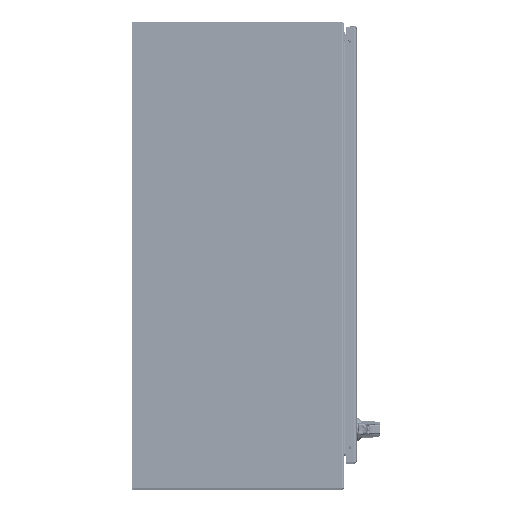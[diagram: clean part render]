
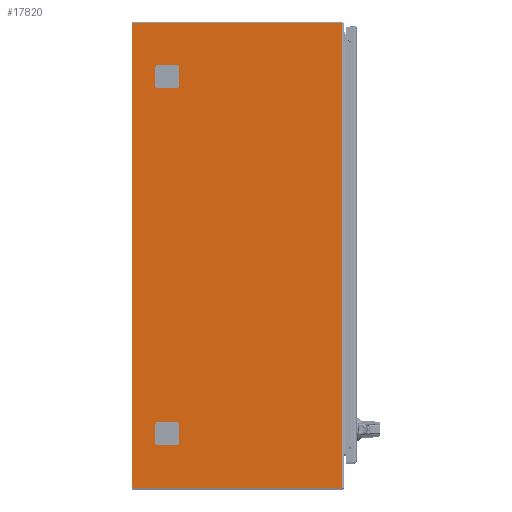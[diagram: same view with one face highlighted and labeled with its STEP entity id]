
A CAD part, top view. The second image highlights one B-rep face of the part: STEP entity #17820.
In plain terms, the highlighted planar face has unit normal (0, 0, 1) as drawn and (0, 1, 0) by its records, which use the part's own axes.
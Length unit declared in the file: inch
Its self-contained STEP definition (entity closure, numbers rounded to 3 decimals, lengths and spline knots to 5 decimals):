
#16583=CARTESIAN_POINT('',(-17.888,0.,-19.638));
#16584=DIRECTION('',(0.,1.,0.));
#16585=DIRECTION('',(0.,0.,-1.));
#16586=AXIS2_PLACEMENT_3D('',#16583,#16584,#16585);
#16591=CARTESIAN_POINT('',(-17.888,0.,19.638));
#16592=DIRECTION('',(0.,1.,0.));
#16593=DIRECTION('',(-1.,0.,0.));
#16594=AXIS2_PLACEMENT_3D('',#16591,#16592,#16593);
#16599=DIRECTION('',(0.,0.,1.));
#16600=VECTOR('',#16599,1.5);
#16601=CARTESIAN_POINT('',(-14.,0.,-15.875));
#16602=LINE('',#16601,#16600);
#16606=CARTESIAN_POINT('',(-14.25,0.,-15.875));
#16607=DIRECTION('',(0.,1.,0.));
#16608=DIRECTION('',(1.,0.,0.));
#16609=AXIS2_PLACEMENT_3D('',#16606,#16607,#16608);
#16614=DIRECTION('',(1.,0.,0.));
#16615=VECTOR('',#16614,1.5);
#16616=CARTESIAN_POINT('',(-15.75,0.,-16.125));
#16617=LINE('',#16616,#16615);
#16621=CARTESIAN_POINT('',(-15.75,0.,-15.875));
#16622=DIRECTION('',(0.,1.,0.));
#16623=DIRECTION('',(0.,0.,-1.));
#16624=AXIS2_PLACEMENT_3D('',#16621,#16622,#16623);
#16629=DIRECTION('',(0.,0.,-1.));
#16630=VECTOR('',#16629,1.5);
#16631=CARTESIAN_POINT('',(-16.,0.,-14.375));
#16632=LINE('',#16631,#16630);
#16636=CARTESIAN_POINT('',(-15.75,0.,-14.375));
#16637=DIRECTION('',(0.,1.,0.));
#16638=DIRECTION('',(-1.,0.,0.));
#16639=AXIS2_PLACEMENT_3D('',#16636,#16637,#16638);
#16644=DIRECTION('',(-1.,0.,0.));
#16645=VECTOR('',#16644,1.5);
#16646=CARTESIAN_POINT('',(-14.25,0.,-14.125));
#16647=LINE('',#16646,#16645);
#16651=CARTESIAN_POINT('',(-14.25,0.,-14.375));
#16652=DIRECTION('',(0.,1.,0.));
#16653=DIRECTION('',(0.,0.,1.));
#16654=AXIS2_PLACEMENT_3D('',#16651,#16652,#16653);
#16659=DIRECTION('',(0.,0.,1.));
#16660=VECTOR('',#16659,1.5);
#16661=CARTESIAN_POINT('',(-14.,0.,14.375));
#16662=LINE('',#16661,#16660);
#16666=CARTESIAN_POINT('',(-14.25,0.,14.375));
#16667=DIRECTION('',(0.,1.,0.));
#16668=DIRECTION('',(1.,0.,0.));
#16669=AXIS2_PLACEMENT_3D('',#16666,#16667,#16668);
#16674=DIRECTION('',(1.,0.,0.));
#16675=VECTOR('',#16674,1.5);
#16676=CARTESIAN_POINT('',(-15.75,0.,14.125));
#16677=LINE('',#16676,#16675);
#16681=CARTESIAN_POINT('',(-15.75,0.,14.375));
#16682=DIRECTION('',(0.,1.,0.));
#16683=DIRECTION('',(0.,0.,-1.));
#16684=AXIS2_PLACEMENT_3D('',#16681,#16682,#16683);
#16689=DIRECTION('',(0.,0.,-1.));
#16690=VECTOR('',#16689,1.5);
#16691=CARTESIAN_POINT('',(-16.,0.,15.875));
#16692=LINE('',#16691,#16690);
#16696=CARTESIAN_POINT('',(-15.75,0.,15.875));
#16697=DIRECTION('',(0.,1.,0.));
#16698=DIRECTION('',(-1.,0.,0.));
#16699=AXIS2_PLACEMENT_3D('',#16696,#16697,#16698);
#16704=DIRECTION('',(-1.,0.,0.));
#16705=VECTOR('',#16704,1.5);
#16706=CARTESIAN_POINT('',(-14.25,0.,16.125));
#16707=LINE('',#16706,#16705);
#16711=CARTESIAN_POINT('',(-14.25,0.,15.875));
#16712=DIRECTION('',(0.,1.,0.));
#16713=DIRECTION('',(0.,0.,1.));
#16714=AXIS2_PLACEMENT_3D('',#16711,#16712,#16713);
#16726=DIRECTION('',(0.,0.,-1.));
#16727=VECTOR('',#16726,39.276);
#16728=CARTESIAN_POINT('',(-17.948,0.,19.638));
#16729=LINE('',#16728,#16727);
#16754=DIRECTION('',(-1.,0.,0.));
#16755=VECTOR('',#16754,17.699);
#16756=CARTESIAN_POINT('',(-0.189,0.,19.698));
#16757=LINE('',#16756,#16755);
#16797=DIRECTION('',(0.,0.,1.));
#16798=VECTOR('',#16797,39.396);
#16799=CARTESIAN_POINT('',(-0.189,0.,-19.698));
#16800=LINE('',#16799,#16798);
#16905=DIRECTION('',(-1.,0.,0.));
#16906=VECTOR('',#16905,17.699);
#16907=CARTESIAN_POINT('',(-0.189,0.,-19.698));
#16908=LINE('',#16907,#16906);
#17605=CARTESIAN_POINT('',(-0.189,0.,19.698));
#17606=VERTEX_POINT('',#17605);
#17607=CARTESIAN_POINT('',(-0.189,0.,-19.698));
#17608=VERTEX_POINT('',#17607);
#17633=CARTESIAN_POINT('',(-17.888,0.,-19.698));
#17634=CARTESIAN_POINT('',(-17.948,0.,-19.638));
#17635=VERTEX_POINT('',#17633);
#17636=VERTEX_POINT('',#17634);
#17641=CARTESIAN_POINT('',(-17.948,0.,19.638));
#17642=CARTESIAN_POINT('',(-17.888,0.,19.698));
#17643=VERTEX_POINT('',#17641);
#17644=VERTEX_POINT('',#17642);
#17649=CARTESIAN_POINT('',(-14.,0.,-15.875));
#17650=CARTESIAN_POINT('',(-14.,0.,-14.375));
#17651=VERTEX_POINT('',#17649);
#17652=VERTEX_POINT('',#17650);
#17653=CARTESIAN_POINT('',(-14.25,0.,-14.125));
#17654=VERTEX_POINT('',#17653);
#17655=CARTESIAN_POINT('',(-15.75,0.,-14.125));
#17656=VERTEX_POINT('',#17655);
#17657=CARTESIAN_POINT('',(-16.,0.,-14.375));
#17658=VERTEX_POINT('',#17657);
#17659=CARTESIAN_POINT('',(-16.,0.,-15.875));
#17660=VERTEX_POINT('',#17659);
#17661=CARTESIAN_POINT('',(-15.75,0.,-16.125));
#17662=VERTEX_POINT('',#17661);
#17663=CARTESIAN_POINT('',(-14.25,0.,-16.125));
#17664=VERTEX_POINT('',#17663);
#17665=CARTESIAN_POINT('',(-14.,0.,14.375));
#17666=CARTESIAN_POINT('',(-14.,0.,15.875));
#17667=VERTEX_POINT('',#17665);
#17668=VERTEX_POINT('',#17666);
#17669=CARTESIAN_POINT('',(-14.25,0.,16.125));
#17670=VERTEX_POINT('',#17669);
#17671=CARTESIAN_POINT('',(-15.75,0.,16.125));
#17672=VERTEX_POINT('',#17671);
#17673=CARTESIAN_POINT('',(-16.,0.,15.875));
#17674=VERTEX_POINT('',#17673);
#17675=CARTESIAN_POINT('',(-16.,0.,14.375));
#17676=VERTEX_POINT('',#17675);
#17677=CARTESIAN_POINT('',(-15.75,0.,14.125));
#17678=VERTEX_POINT('',#17677);
#17679=CARTESIAN_POINT('',(-14.25,0.,14.125));
#17680=VERTEX_POINT('',#17679);
#17765=CARTESIAN_POINT('',(0.,0.,19.698));
#17766=DIRECTION('',(0.,1.,0.));
#17767=DIRECTION('',(-1.,0.,0.));
#17768=AXIS2_PLACEMENT_3D('',#17765,#17766,#17767);
#17769=PLANE('',#17768);
#17771=ORIENTED_EDGE('',*,*,#17770,.F.);
#17773=ORIENTED_EDGE('',*,*,#17772,.F.);
#17775=ORIENTED_EDGE('',*,*,#17774,.T.);
#17777=ORIENTED_EDGE('',*,*,#17776,.T.);
#17779=ORIENTED_EDGE('',*,*,#17778,.F.);
#17781=ORIENTED_EDGE('',*,*,#17780,.T.);
#17782=EDGE_LOOP('',(#17771,#17773,#17775,#17777,#17779,#17781));
#17783=FACE_OUTER_BOUND('',#17782,.F.);
#17785=ORIENTED_EDGE('',*,*,#17784,.F.);
#17787=ORIENTED_EDGE('',*,*,#17786,.T.);
#17789=ORIENTED_EDGE('',*,*,#17788,.F.);
#17791=ORIENTED_EDGE('',*,*,#17790,.T.);
#17793=ORIENTED_EDGE('',*,*,#17792,.F.);
#17795=ORIENTED_EDGE('',*,*,#17794,.T.);
#17797=ORIENTED_EDGE('',*,*,#17796,.F.);
#17799=ORIENTED_EDGE('',*,*,#17798,.T.);
#17800=EDGE_LOOP('',(#17785,#17787,#17789,#17791,#17793,#17795,#17797,#17799));
#17801=FACE_BOUND('',#17800,.F.);
#17803=ORIENTED_EDGE('',*,*,#17802,.F.);
#17805=ORIENTED_EDGE('',*,*,#17804,.T.);
#17807=ORIENTED_EDGE('',*,*,#17806,.F.);
#17809=ORIENTED_EDGE('',*,*,#17808,.T.);
#17811=ORIENTED_EDGE('',*,*,#17810,.F.);
#17813=ORIENTED_EDGE('',*,*,#17812,.T.);
#17815=ORIENTED_EDGE('',*,*,#17814,.F.);
#17817=ORIENTED_EDGE('',*,*,#17816,.T.);
#17818=EDGE_LOOP('',(#17803,#17805,#17807,#17809,#17811,#17813,#17815,#17817));
#17819=FACE_BOUND('',#17818,.F.);
#16587=CIRCLE('',#16586,0.06);
#16595=CIRCLE('',#16594,0.06);
#16610=CIRCLE('',#16609,0.25);
#16625=CIRCLE('',#16624,0.25);
#16640=CIRCLE('',#16639,0.25);
#16655=CIRCLE('',#16654,0.25);
#16670=CIRCLE('',#16669,0.25);
#16685=CIRCLE('',#16684,0.25);
#16700=CIRCLE('',#16699,0.25);
#16715=CIRCLE('',#16714,0.25);
#17770=EDGE_CURVE('',#17635,#17636,#16587,.T.);
#17772=EDGE_CURVE('',#17608,#17635,#16908,.T.);
#17774=EDGE_CURVE('',#17608,#17606,#16800,.T.);
#17776=EDGE_CURVE('',#17606,#17644,#16757,.T.);
#17778=EDGE_CURVE('',#17643,#17644,#16595,.T.);
#17780=EDGE_CURVE('',#17643,#17636,#16729,.T.);
#17784=EDGE_CURVE('',#17651,#17652,#16602,.T.);
#17786=EDGE_CURVE('',#17651,#17664,#16610,.T.);
#17788=EDGE_CURVE('',#17662,#17664,#16617,.T.);
#17790=EDGE_CURVE('',#17662,#17660,#16625,.T.);
#17792=EDGE_CURVE('',#17658,#17660,#16632,.T.);
#17794=EDGE_CURVE('',#17658,#17656,#16640,.T.);
#17796=EDGE_CURVE('',#17654,#17656,#16647,.T.);
#17798=EDGE_CURVE('',#17654,#17652,#16655,.T.);
#17802=EDGE_CURVE('',#17667,#17668,#16662,.T.);
#17804=EDGE_CURVE('',#17667,#17680,#16670,.T.);
#17806=EDGE_CURVE('',#17678,#17680,#16677,.T.);
#17808=EDGE_CURVE('',#17678,#17676,#16685,.T.);
#17810=EDGE_CURVE('',#17674,#17676,#16692,.T.);
#17812=EDGE_CURVE('',#17674,#17672,#16700,.T.);
#17814=EDGE_CURVE('',#17670,#17672,#16707,.T.);
#17816=EDGE_CURVE('',#17670,#17668,#16715,.T.);
#17820=ADVANCED_FACE('',(#17783,#17801,#17819),#17769,.T.);
